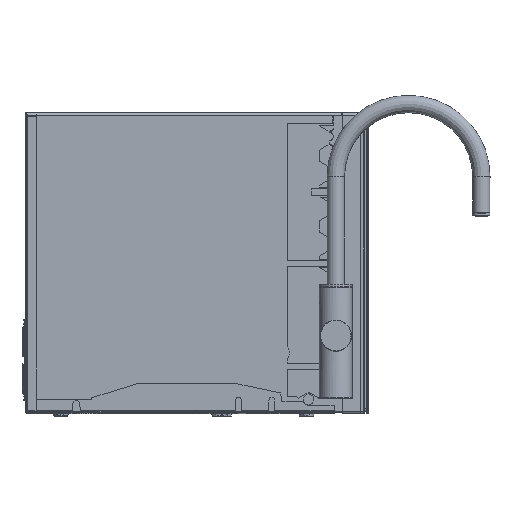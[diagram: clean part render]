
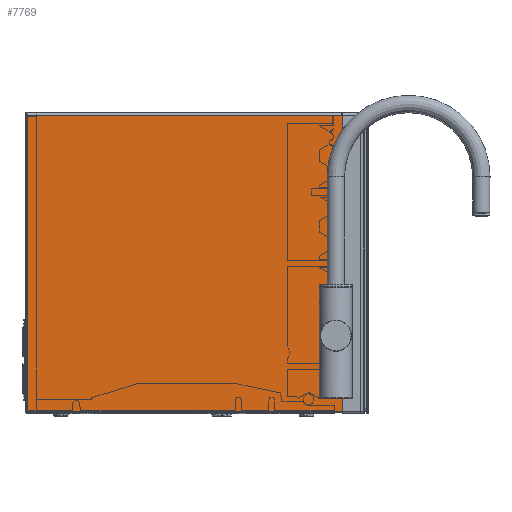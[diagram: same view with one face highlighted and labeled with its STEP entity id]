
A CAD part, left-side view. The second image highlights one B-rep face of the part: STEP entity #7769.
In plain terms, the highlighted planar face has unit normal (-1, 0, 0).
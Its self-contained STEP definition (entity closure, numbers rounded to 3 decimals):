
#7769=ADVANCED_FACE('',(#12068),#75764,.T.);
#12068=FACE_OUTER_BOUND('',#16399,.T.);
#16399=EDGE_LOOP('',(#23082,#23083,#23084,#23085,#23086));
#23082=ORIENTED_EDGE('',*,*,#45767,.F.);
#23083=ORIENTED_EDGE('',*,*,#45778,.F.);
#23084=ORIENTED_EDGE('',*,*,#45766,.F.);
#23085=ORIENTED_EDGE('',*,*,#45764,.F.);
#23086=ORIENTED_EDGE('',*,*,#45678,.F.);
#45678=EDGE_CURVE('',#68286,#68217,#58333,.T.);
#45764=EDGE_CURVE('',#68217,#68325,#58388,.T.);
#45766=EDGE_CURVE('',#68325,#68326,#58389,.T.);
#45767=EDGE_CURVE('',#68336,#68286,#58390,.T.);
#45778=EDGE_CURVE('',#68326,#68336,#58399,.T.);
#58333=B_SPLINE_CURVE_WITH_KNOTS('',1,(#101383,#101384),.UNSPECIFIED.,.F.,
 .F.,(2,2),(0.,427.3),.UNSPECIFIED.);
#58388=B_SPLINE_CURVE_WITH_KNOTS('',1,(#101594,#101595),.UNSPECIFIED.,.F.,
 .F.,(2,2),(0.,455.5),.UNSPECIFIED.);
#58389=B_SPLINE_CURVE_WITH_KNOTS('',1,(#101599,#101600),.UNSPECIFIED.,.F.,
 .F.,(2,2),(-427.3,0.),.UNSPECIFIED.);
#58390=B_SPLINE_CURVE_WITH_KNOTS('',1,(#101601,#101602),.UNSPECIFIED.,.F.,
 .F.,(2,2),(-1.616,0.),.UNSPECIFIED.);
#58399=B_SPLINE_CURVE_WITH_KNOTS('',1,(#101625,#101626),.UNSPECIFIED.,.F.,
 .F.,(2,2),(-453.884,0.),.UNSPECIFIED.);
#68217=VERTEX_POINT('',#100492);
#68286=VERTEX_POINT('',#100561);
#68325=VERTEX_POINT('',#100600);
#68326=VERTEX_POINT('',#100601);
#68336=VERTEX_POINT('',#100611);
#75764=PLANE('',#78865);
#78865=AXIS2_PLACEMENT_3D('',#100169,#84924,$);
#84924=DIRECTION('',(-1.,0.,0.));
#100169=CARTESIAN_POINT('',(145.098,-124.697,192.892));
#100492=CARTESIAN_POINT('',(145.098,-79.147,235.623));
#100561=CARTESIAN_POINT('',(145.098,-79.147,662.923));
#100600=CARTESIAN_POINT('',(145.098,376.353,235.623));
#100601=CARTESIAN_POINT('',(145.098,376.353,662.923));
#100611=CARTESIAN_POINT('',(145.098,-77.53,662.923));
#101383=CARTESIAN_POINT('',(145.098,-79.147,662.923));
#101384=CARTESIAN_POINT('',(145.098,-79.147,235.623));
#101594=CARTESIAN_POINT('',(145.098,-79.147,235.623));
#101595=CARTESIAN_POINT('',(145.098,376.353,235.623));
#101599=CARTESIAN_POINT('',(145.098,376.353,235.623));
#101600=CARTESIAN_POINT('',(145.098,376.353,662.923));
#101601=CARTESIAN_POINT('',(145.098,-77.53,662.923));
#101602=CARTESIAN_POINT('',(145.098,-79.147,662.923));
#101625=CARTESIAN_POINT('',(145.098,376.353,662.923));
#101626=CARTESIAN_POINT('',(145.098,-77.53,662.923));
